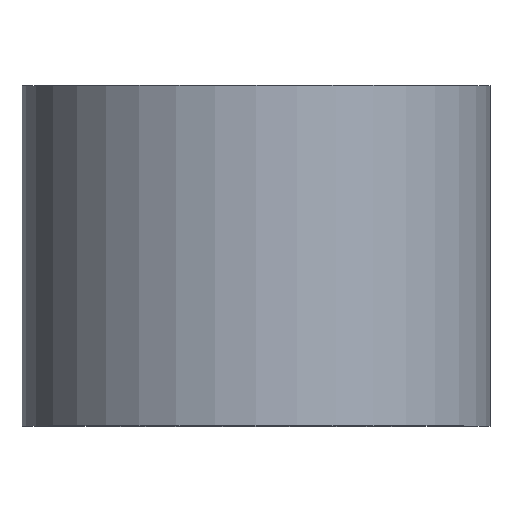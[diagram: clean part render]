
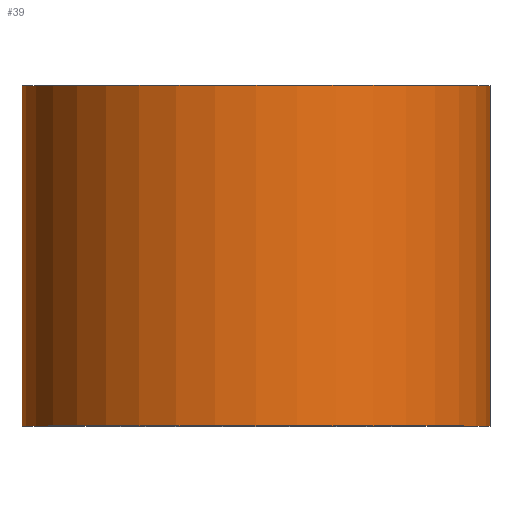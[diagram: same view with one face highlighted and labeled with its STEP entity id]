
A CAD part, top view. The second image highlights one B-rep face of the part: STEP entity #39.
In plain terms, the highlighted cylindrical face has radius 11 mm (diameter 22 mm), a partial arc.
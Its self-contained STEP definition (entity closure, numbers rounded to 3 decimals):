
#5 = ORIENTED_EDGE ( 'NONE', *, *, #82, .F. ) ;
#12 = CARTESIAN_POINT ( 'NONE',  ( 11., 0., 0. ) ) ;
#26 = FACE_OUTER_BOUND ( 'NONE', #155, .T. ) ;
#32 = CYLINDRICAL_SURFACE ( 'NONE', #108, 11. ) ;
#33 = CARTESIAN_POINT ( 'NONE',  ( 0., 0., 0. ) ) ;
#39 = ADVANCED_FACE ( 'NONE', ( #26 ), #32, .T. ) ;
#53 = DIRECTION ( 'NONE',  ( 0., 1., 0. ) ) ;
#54 = EDGE_CURVE ( 'NONE', #61, #74, #264, .T. ) ;
#57 = CARTESIAN_POINT ( 'NONE',  ( 11., 16., 0. ) ) ;
#60 = DIRECTION ( 'NONE',  ( -1., 0., 0. ) ) ;
#61 = VERTEX_POINT ( 'NONE', #267 ) ;
#74 = VERTEX_POINT ( 'NONE', #57 ) ;
#75 = DIRECTION ( 'NONE',  ( 0., 1., 0. ) ) ;
#76 = DIRECTION ( 'NONE',  ( 0., 1., 0. ) ) ;
#82 = EDGE_CURVE ( 'NONE', #263, #61, #93, .T. ) ;
#83 = CARTESIAN_POINT ( 'NONE',  ( 0., 0., 0. ) ) ;
#93 = LINE ( 'NONE', #98, #97 ) ;
#95 = EDGE_CURVE ( 'NONE', #249, #74, #293, .T. ) ;
#97 = VECTOR ( 'NONE', #75, 1000. ) ;
#98 = CARTESIAN_POINT ( 'NONE',  ( -11., 0., 0. ) ) ;
#108 = AXIS2_PLACEMENT_3D ( 'NONE', #33, #53, #294 ) ;
#122 = CARTESIAN_POINT ( 'NONE',  ( -11., 0., 0. ) ) ;
#140 = ORIENTED_EDGE ( 'NONE', *, *, #54, .F. ) ;
#142 = AXIS2_PLACEMENT_3D ( 'NONE', #223, #76, #193 ) ;
#144 = DIRECTION ( 'NONE',  ( 0., 1., 0. ) ) ;
#155 = EDGE_LOOP ( 'NONE', ( #160, #238, #140, #5 ) ) ;
#160 = ORIENTED_EDGE ( 'NONE', *, *, #232, .T. ) ;
#167 = AXIS2_PLACEMENT_3D ( 'NONE', #83, #201, #60 ) ;
#193 = DIRECTION ( 'NONE',  ( -1., 0., 0. ) ) ;
#201 = DIRECTION ( 'NONE',  ( 0., 1., 0. ) ) ;
#222 = CARTESIAN_POINT ( 'NONE',  ( 11., 0., 0. ) ) ;
#223 = CARTESIAN_POINT ( 'NONE',  ( 0., 16., 0. ) ) ;
#224 = CIRCLE ( 'NONE', #167, 11. ) ;
#232 = EDGE_CURVE ( 'NONE', #263, #249, #224, .T. ) ;
#238 = ORIENTED_EDGE ( 'NONE', *, *, #95, .T. ) ;
#249 = VERTEX_POINT ( 'NONE', #12 ) ;
#263 = VERTEX_POINT ( 'NONE', #122 ) ;
#264 = CIRCLE ( 'NONE', #142, 11. ) ;
#267 = CARTESIAN_POINT ( 'NONE',  ( -11., 16., 0. ) ) ;
#273 = VECTOR ( 'NONE', #144, 1000. ) ;
#293 = LINE ( 'NONE', #222, #273 ) ;
#294 = DIRECTION ( 'NONE',  ( -1., 0., 0. ) ) ;
